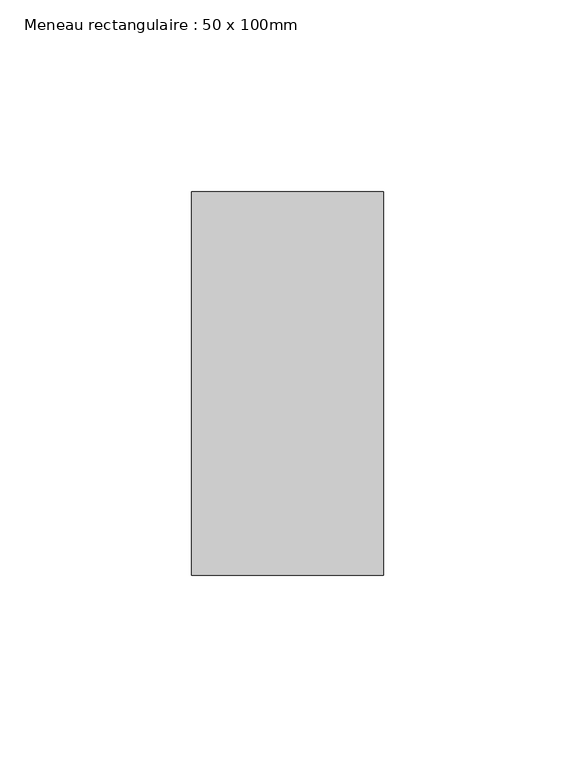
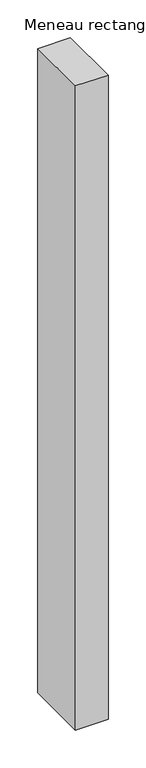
"""IFC4 building model written with IfcOpenShell, lengths in millimetres: member geometry, Meneau rectangulaire : 50 x 100mm."""

from ifc_helpers import new_model, si_unit, frame, origin, place, context, project, spatial, polyline, outline, extrude, source, transform, mapped, element, save


def meneau_rectangulaire_50_x_100mm_b1ef6331(model_context):
    return source(origin(), model_context, "Body", "SweptSolid", [
        extrude(outline(polyline([(25.0, 50.0), (25.0, -50.0), (-25.0, -50.0), (-25.0, 50.0), (25.0, 50.0)])), frame((0.0, 0.0, -1043.2854498), z_axis=(0.0, 0.0, 1.0), x_axis=(1.0, 0.0, 0.0)), (0.0, 0.0, 1.0), 1043.2854498),
    ])


if __name__ == "__main__":
    model = new_model("IFC4")
    model_context = context("Model", 3, world=origin())
    ifc_project = project(units=[si_unit("LENGTHUNIT", "METRE", prefix="MILLI")], contexts=[model_context])
    site = spatial("IfcSite", under=ifc_project)
    building = spatial("IfcBuilding", under=site)
    placement = place(None, origin())
    meneau_rectangulaire_50_x_100mm_shape = meneau_rectangulaire_50_x_100mm_b1ef6331(model_context)
    element("IfcMember", 1, ObjectType="Meneau rectangulaire : 50 x 100mm", at=placement, inside=building, context=model_context, shape_type="MappedRepresentation", body=[
        mapped(meneau_rectangulaire_50_x_100mm_shape, transform((0.0, 0.0, 0.0), x_axis=(1.0, 0.0, 0.0), y_axis=(0.0, 1.0, 0.0), z_axis=(0.0, 0.0, 1.0))),
    ])
    save(model, "model.ifc")
